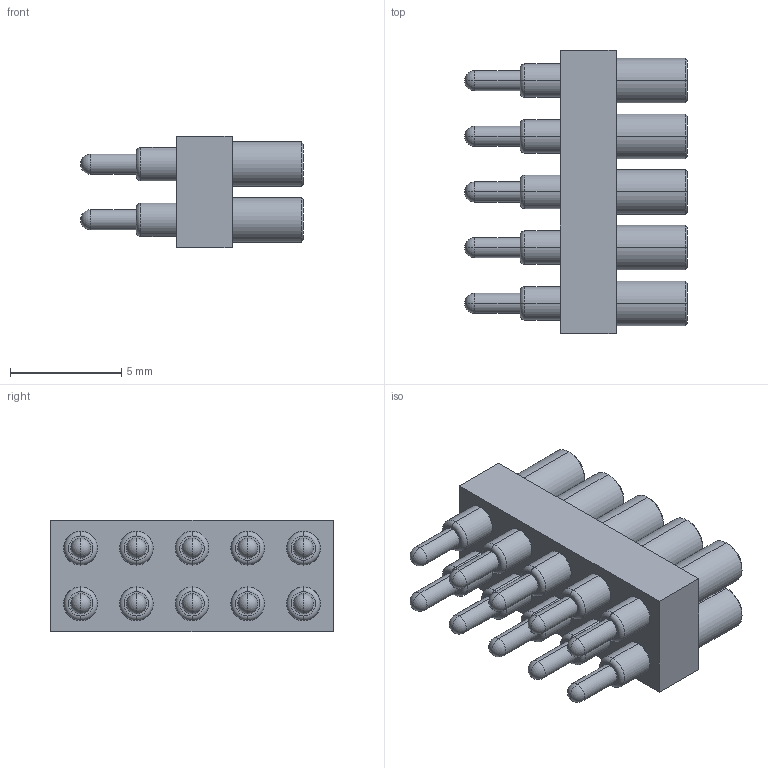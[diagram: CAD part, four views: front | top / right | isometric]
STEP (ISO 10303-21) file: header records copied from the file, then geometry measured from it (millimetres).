
FILE_DESCRIPTION((''),'2;1');
FILE_NAME('ASM0006_ASM','2023-06-08T10:41:08',('USER'),(''),'CREO PARAMETRIC BY PTC INC, 2020154','CREO PARAMETRIC BY PTC INC, 2020154','');
FILE_SCHEMA(('CONFIG_CONTROL_DESIGN'));
Length unit declared in the file: millimetre
Products named in the file (3): PRT0007; PRT0006; ASM0006_ASM
Assembly tree (11 placements, depth 2):
  ASM0006_ASM
    PRT0007
    PRT0006  x10
Bounding box: 10 x 12.7 x 5 mm (x, y, z)
Volume: 304.2 mm3; surface area: 821.4 mm2
Topology: 11 solids, 11 shells, 196 faces, 412 edges, 238 vertices
Faces by surface type: cylinder 100, plane 36, cone 20, torus 20, sphere 20
Entity records: 1484 total; most frequent: DIRECTION 280, CARTESIAN_POINT 228, ORIENTED_EDGE 208, AXIS2_PLACEMENT_3D 119, EDGE_CURVE 104, VERTEX_POINT 67, EDGE_LOOP 65, CIRCLE 62
